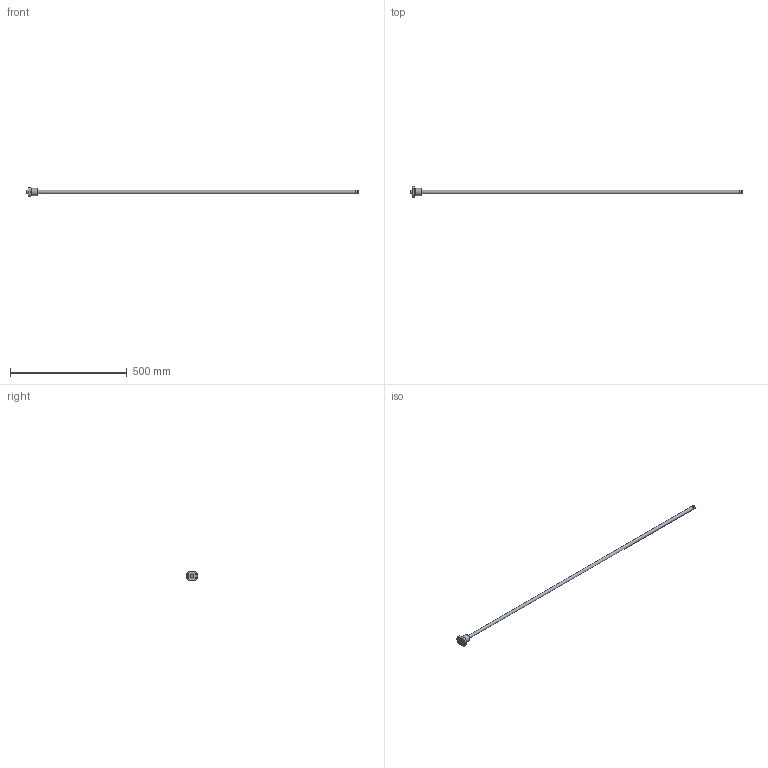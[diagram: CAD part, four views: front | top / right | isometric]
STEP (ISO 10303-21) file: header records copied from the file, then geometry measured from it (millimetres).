
FILE_DESCRIPTION( ( 'STEP AP203' ), ' ' );
FILE_NAME( 'p:/temp/worker_20/2584_100/app_47_12018011810384198342525818fa3fd_000000_00_00_000000/format_0/BTK 1404V-3.6ZZ+1424LC7T_13640.stp', '2018-01-18T09:38:43', ( '' ), ( '' ), ' ', 'PARTsolutions', ' ' );
FILE_SCHEMA( ( 'CONFIG_CONTROL_DESIGN' ) );
Length unit declared in the file: millimetre
Products named in the file (3): BTK 1404V-3.6ZZ+1424LC7T_13640; _BTK 1404V-3.61364 Shaft; _BTK 1404V-3.6ZZ Nut
Assembly tree (2 placements, depth 2):
  BTK 1404V-3.6ZZ+1424LC7T_13640
    _BTK 1404V-3.61364 Shaft
    _BTK 1404V-3.6ZZ Nut
Bounding box: 1424 x 50 x 37 mm (x, y, z)
Volume: 250158.6 mm3; surface area: 73229.9 mm2
Topology: 2 solids, 2 shells, 39 faces, 84 edges, 55 vertices
Faces by surface type: cylinder 17, plane 14, cone 8
Full cylindrical faces by diameter (mm): 4.5 x4, 4.917 x1, 11.2 x2, 14 x4, 16.8 x2, 27.9 x1, 31 x1
Entity records: 1198 total; most frequent: CARTESIAN_POINT 299, DIRECTION 174, ORIENTED_EDGE 122, AXIS2_PLACEMENT_3D 82, EDGE_LOOP 76, EDGE_CURVE 61, FACE_OUTER_BOUND 54, VERTEX_POINT 51
